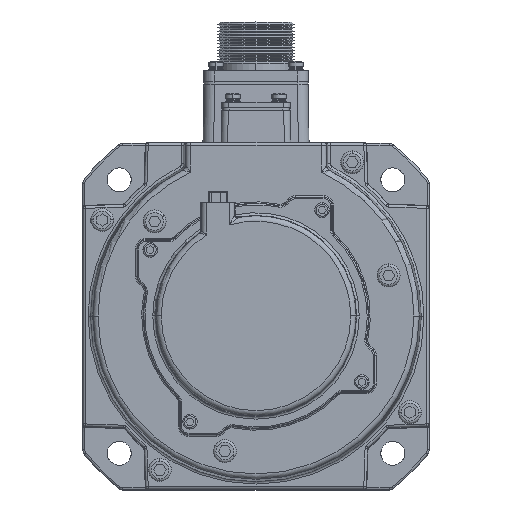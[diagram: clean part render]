
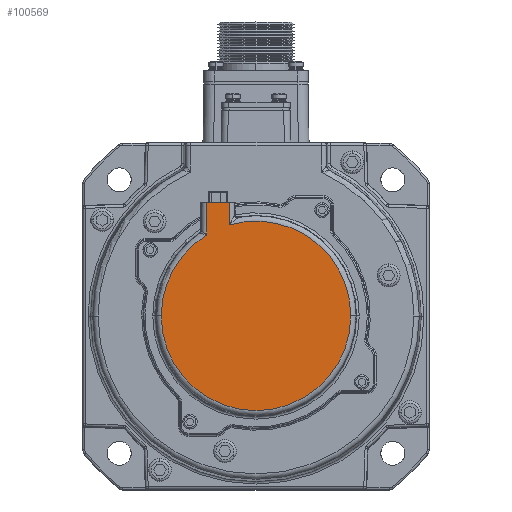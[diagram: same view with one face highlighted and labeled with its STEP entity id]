
A CAD part, top view. The second image highlights one B-rep face of the part: STEP entity #100569.
In plain terms, the highlighted planar face has unit normal (0, 0, 1).
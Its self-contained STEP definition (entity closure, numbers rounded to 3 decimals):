
#6284 = ORIENTED_EDGE ( 'NONE', *, *, #42876, .T. ) ;
#7384 = CARTESIAN_POINT ( 'NONE',  ( -16.872, -13.773, -18.537 ) ) ;
#7422 = LINE ( 'NONE', #27203, #88484 ) ;
#7978 = LINE ( 'NONE', #7384, #117109 ) ;
#8135 = DIRECTION ( 'NONE',  ( 1., 0., 0. ) ) ;
#13180 = CIRCLE ( 'NONE', #48871, 35.528 ) ;
#13319 = VERTEX_POINT ( 'NONE', #32937 ) ;
#15067 = ORIENTED_EDGE ( 'NONE', *, *, #27115, .T. ) ;
#16601 = DIRECTION ( 'NONE',  ( 0., -1., 0. ) ) ;
#17991 = DIRECTION ( 'NONE',  ( 1., 0., 0. ) ) ;
#19196 = VERTEX_POINT ( 'NONE', #64800 ) ;
#19471 = EDGE_CURVE ( 'NONE', #13319, #86827, #7978, .T. ) ;
#21585 = ORIENTED_EDGE ( 'NONE', *, *, #86040, .T. ) ;
#27115 = EDGE_CURVE ( 'NONE', #50774, #111868, #13180, .T. ) ;
#27203 = CARTESIAN_POINT ( 'NONE',  ( -27.4, -24.873, -18.537 ) ) ;
#28706 = CIRCLE ( 'NONE', #62527, 35.528 ) ;
#32649 = DIRECTION ( 'NONE',  ( 0., 0., 1. ) ) ;
#32937 = CARTESIAN_POINT ( 'NONE',  ( -27.4, -13.773, -18.537 ) ) ;
#33828 = AXIS2_PLACEMENT_3D ( 'NONE', #74649, #32649, #106523 ) ;
#34766 = CARTESIAN_POINT ( 'NONE',  ( -44.4, -56.273, -18.537 ) ) ;
#41974 = DIRECTION ( 'NONE',  ( 0., 0., 1. ) ) ;
#42876 = EDGE_CURVE ( 'NONE', #19196, #86827, #101345, .T. ) ;
#44115 = DIRECTION ( 'NONE',  ( 0., 1., 0. ) ) ;
#45188 = VECTOR ( 'NONE', #44115, 1000. ) ;
#48871 = AXIS2_PLACEMENT_3D ( 'NONE', #134673, #71417, #8135 ) ;
#49772 = DIRECTION ( 'NONE',  ( 0., 0., 1. ) ) ;
#50774 = VERTEX_POINT ( 'NONE', #62288 ) ;
#53450 = PLANE ( 'NONE',  #33828 ) ;
#62288 = CARTESIAN_POINT ( 'NONE',  ( -27.4, -25.959, -18.537 ) ) ;
#62527 = AXIS2_PLACEMENT_3D ( 'NONE', #113018, #49772, #123659 ) ;
#64800 = CARTESIAN_POINT ( 'NONE',  ( -18.844, -22.174, -18.537 ) ) ;
#67776 = CARTESIAN_POINT ( 'NONE',  ( 26.656, -56.273, -18.537 ) ) ;
#69608 = AXIS2_PLACEMENT_3D ( 'NONE', #105197, #41974, #115816 ) ;
#71417 = DIRECTION ( 'NONE',  ( 0., 0., 1. ) ) ;
#74649 = CARTESIAN_POINT ( 'NONE',  ( -8.872, -56.273, -18.537 ) ) ;
#75877 = FACE_OUTER_BOUND ( 'NONE', #124425, .T. ) ;
#76580 = EDGE_CURVE ( 'NONE', #133340, #19196, #28706, .T. ) ;
#85663 = CIRCLE ( 'NONE', #69608, 35.528 ) ;
#86040 = EDGE_CURVE ( 'NONE', #111868, #133340, #85663, .T. ) ;
#86827 = VERTEX_POINT ( 'NONE', #92965 ) ;
#88484 = VECTOR ( 'NONE', #16601, 1000. ) ;
#92965 = CARTESIAN_POINT ( 'NONE',  ( -18.844, -13.773, -18.537 ) ) ;
#93734 = ORIENTED_EDGE ( 'NONE', *, *, #76580, .T. ) ;
#95254 = ORIENTED_EDGE ( 'NONE', *, *, #19471, .F. ) ;
#100569 = ADVANCED_FACE ( 'NONE', ( #75877 ), #53450, .T. ) ;
#101345 = LINE ( 'NONE', #107300, #45188 ) ;
#105197 = CARTESIAN_POINT ( 'NONE',  ( -8.872, -56.273, -18.537 ) ) ;
#106523 = DIRECTION ( 'NONE',  ( 1., 0., 0. ) ) ;
#107300 = CARTESIAN_POINT ( 'NONE',  ( -18.844, -13.773, -18.537 ) ) ;
#111868 = VERTEX_POINT ( 'NONE', #34766 ) ;
#113018 = CARTESIAN_POINT ( 'NONE',  ( -8.872, -56.273, -18.537 ) ) ;
#115816 = DIRECTION ( 'NONE',  ( 1., 0., 0. ) ) ;
#117109 = VECTOR ( 'NONE', #17991, 1000. ) ;
#123659 = DIRECTION ( 'NONE',  ( 1., 0., 0. ) ) ;
#124425 = EDGE_LOOP ( 'NONE', ( #95254, #129493, #15067, #21585, #93734, #6284 ) ) ;
#126330 = EDGE_CURVE ( 'NONE', #13319, #50774, #7422, .T. ) ;
#129493 = ORIENTED_EDGE ( 'NONE', *, *, #126330, .T. ) ;
#133340 = VERTEX_POINT ( 'NONE', #67776 ) ;
#134673 = CARTESIAN_POINT ( 'NONE',  ( -8.872, -56.273, -18.537 ) ) ;
